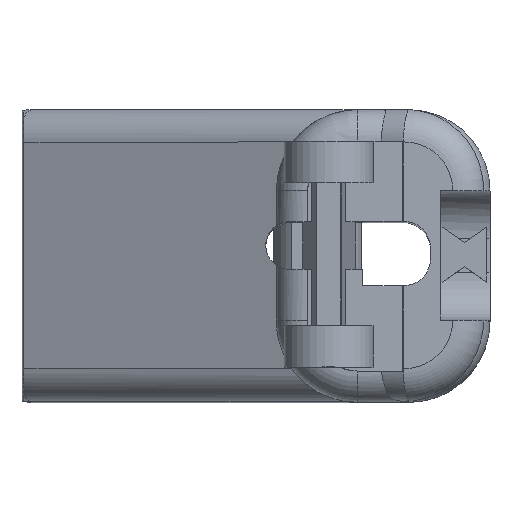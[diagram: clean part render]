
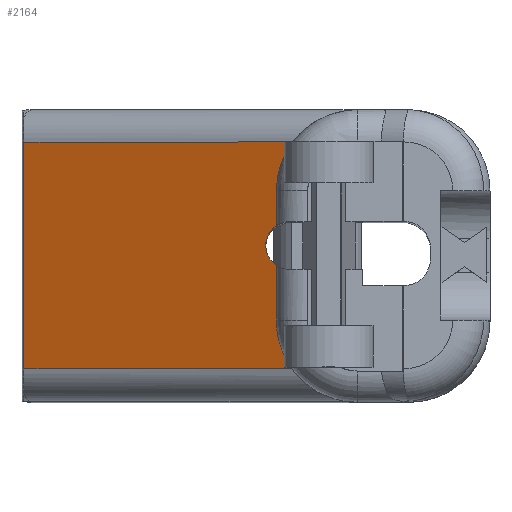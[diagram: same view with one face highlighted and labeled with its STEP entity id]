
A CAD part, top view. The second image highlights one B-rep face of the part: STEP entity #2164.
In plain terms, the highlighted planar face has unit normal (-0.412, 0, 0.911).
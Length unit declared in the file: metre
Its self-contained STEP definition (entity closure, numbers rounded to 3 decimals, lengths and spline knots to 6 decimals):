
#165=ELLIPSE('',#2299,0.001659,0.001512);
#166=ELLIPSE('',#2301,0.005608,0.005109);
#167=ELLIPSE('',#2306,0.005608,0.005109);
#168=ELLIPSE('',#2340,0.001616,0.001473);
#387=ORIENTED_EDGE('',*,*,#1000,.F.);
#388=ORIENTED_EDGE('',*,*,#939,.F.);
#389=ORIENTED_EDGE('',*,*,#920,.T.);
#390=ORIENTED_EDGE('',*,*,#940,.T.);
#391=ORIENTED_EDGE('',*,*,#906,.T.);
#392=ORIENTED_EDGE('',*,*,#1001,.T.);
#393=ORIENTED_EDGE('',*,*,#1002,.T.);
#394=ORIENTED_EDGE('',*,*,#947,.T.);
#395=ORIENTED_EDGE('',*,*,#923,.T.);
#906=EDGE_CURVE('',#1229,#1228,#1434,.F.);
#920=EDGE_CURVE('',#1242,#1241,#1441,.T.);
#923=EDGE_CURVE('',#1245,#1243,#1444,.T.);
#939=EDGE_CURVE('',#1242,#1255,#165,.F.);
#940=EDGE_CURVE('',#1241,#1229,#166,.T.);
#947=EDGE_CURVE('',#1261,#1245,#167,.T.);
#1000=EDGE_CURVE('',#1255,#1243,#168,.F.);
#1001=EDGE_CURVE('',#1228,#1297,#1476,.T.);
#1002=EDGE_CURVE('',#1297,#1261,#1477,.F.);
#1228=VERTEX_POINT('',#3237);
#1229=VERTEX_POINT('',#3239);
#1241=VERTEX_POINT('',#3300);
#1242=VERTEX_POINT('',#3302);
#1243=VERTEX_POINT('',#3306);
#1245=VERTEX_POINT('',#3309);
#1255=VERTEX_POINT('',#3343);
#1261=VERTEX_POINT('',#3361);
#1297=VERTEX_POINT('',#3522);
#1434=LINE('',#3238,#1647);
#1441=LINE('',#3301,#1654);
#1444=LINE('',#3308,#1657);
#1476=LINE('',#3521,#1689);
#1477=LINE('',#3523,#1690);
#1647=VECTOR('',#2564,1.);
#1654=VECTOR('',#2579,1.);
#1657=VECTOR('',#2584,1.);
#1689=VECTOR('',#2718,1.);
#1690=VECTOR('',#2719,1.);
#1839=EDGE_LOOP('',(#387,#388,#389,#390,#391,#392,#393,#394,#395));
#1967=FACE_BOUND('',#1839,.T.);
#2077=PLANE('',#2339);
#2164=ADVANCED_FACE('',(#1967),#2077,.F.);
#2299=AXIS2_PLACEMENT_3D('',#3345,#2611,#2612);
#2301=AXIS2_PLACEMENT_3D('',#3347,#2615,#2616);
#2306=AXIS2_PLACEMENT_3D('',#3360,#2628,#2629);
#2339=AXIS2_PLACEMENT_3D('',#3519,#2714,#2715);
#2340=AXIS2_PLACEMENT_3D('',#3520,#2716,#2717);
#2564=DIRECTION('',(0.911,0.,0.412));
#2579=DIRECTION('',(0.,1.,0.));
#2584=DIRECTION('',(0.,1.,0.));
#2611=DIRECTION('',(0.412,0.,-0.911));
#2612=DIRECTION('',(0.911,0.,0.412));
#2615=DIRECTION('',(0.412,0.,-0.911));
#2616=DIRECTION('',(-0.911,0.,-0.412));
#2628=DIRECTION('',(0.412,0.,-0.911));
#2629=DIRECTION('',(-0.911,0.,-0.412));
#2714=DIRECTION('',(0.412,0.,-0.911));
#2715=DIRECTION('',(-0.911,0.,-0.412));
#2716=DIRECTION('',(0.412,0.,-0.911));
#2717=DIRECTION('',(-0.911,0.,-0.412));
#2718=DIRECTION('',(0.,-1.,0.));
#2719=DIRECTION('',(-0.911,0.,-0.412));
#3237=CARTESIAN_POINT('',(0.004482,0.07541,0.053041));
#3238=CARTESIAN_POINT('',(0.012332,0.07541,0.056592));
#3239=CARTESIAN_POINT('',(0.021415,0.07541,0.060703));
#3300=CARTESIAN_POINT('',(0.020379,0.072325,0.060234));
#3301=CARTESIAN_POINT('',(0.020379,0.06823,0.060234));
#3302=CARTESIAN_POINT('',(0.020379,0.070147,0.060234));
#3306=CARTESIAN_POINT('',(0.020379,0.067639,0.060234));
#3308=CARTESIAN_POINT('',(0.020379,0.06823,0.060234));
#3309=CARTESIAN_POINT('',(0.020379,0.064134,0.060234));
#3343=CARTESIAN_POINT('',(0.02011,0.067872,0.060112));
#3345=CARTESIAN_POINT('',(0.021224,0.068894,0.060616));
#3347=CARTESIAN_POINT('',(0.025488,0.072325,0.062545));
#3360=CARTESIAN_POINT('',(0.025488,0.064134,0.062545));
#3361=CARTESIAN_POINT('',(0.021357,0.061127,0.060676));
#3519=CARTESIAN_POINT('',(0.012332,0.048656,0.056592));
#3520=CARTESIAN_POINT('',(0.021202,0.068859,0.060606));
#3521=CARTESIAN_POINT('',(0.004482,0.080332,0.053041));
#3522=CARTESIAN_POINT('',(0.004482,0.061127,0.053041));
#3523=CARTESIAN_POINT('',(0.012332,0.061127,0.056592));
